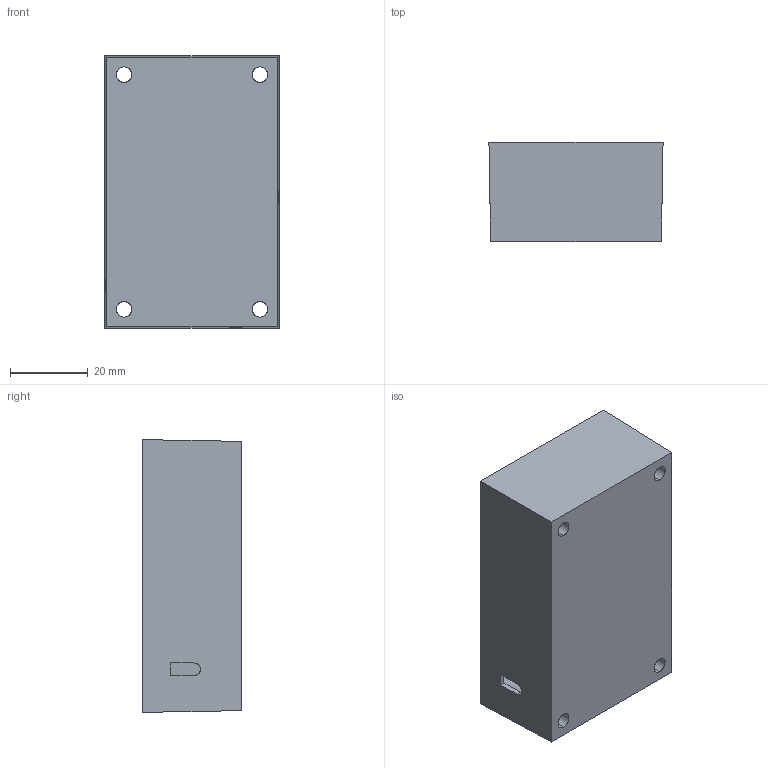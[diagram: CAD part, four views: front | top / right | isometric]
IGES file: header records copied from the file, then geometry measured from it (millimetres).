
Start section: SolidWorks IGES file using analytic representation for surfaces
Global section: file name: S:\Engineering Projects\VOICE #304 FILES\90294.IGS; native system: SolidWorks 2013; preprocessor: SolidWorks 2013; author: Davef; date: 140310.154526; units: inch
Bounding box: 44.75 x 25.4 x 70.1 mm (x, y, z)
Surface area: 27173 mm2 (no closed solid volume)
Topology: 0 solids, 0 shells, 307 faces, 4013 edges, 4013 vertices
Faces by surface type: bspline 288, revolution 19
